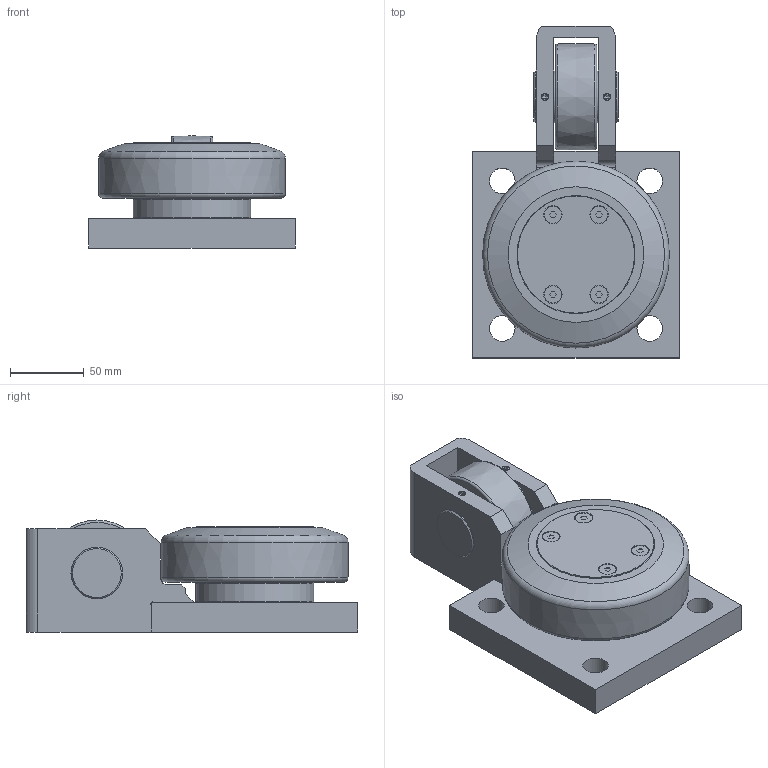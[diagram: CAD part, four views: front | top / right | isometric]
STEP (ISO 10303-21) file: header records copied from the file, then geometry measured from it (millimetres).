
FILE_DESCRIPTION(/* description */ ('-','CAx-IF Rec.Pracs.---Representation and Presentation of Product Manufacturing Information (PMI)---4.0---2014-10-13'),/* implementation_level */ '2;1');
FILE_NAME(/* name */ 'c:\temp\d769b1c2-62cd-49b6-97f6-35e245bc2e8b\8d9c89e7-1212-4744-80bb-2731ae298af8.stp',/* time_stamp */ '2020-04-01T16:44:01+02:00',/* author */ ('-'),/* organization */ ('NTI CADcenter A/S'),/* preprocessor_version */ 'ST-DEVELOPER v18',/* originating_system */ 'Autodesk Inventor 2020',/* authorisation */ '-');
FILE_SCHEMA (('AP242_MANAGED_MODEL_BASED_3D_ENGINEERING_MIM_LF { 1 0 10303 442 1 1 4 }'));
Length unit declared in the file: millimetre
Products named in the file (1): XSTR 120.6200_Kontur
Bounding box: 140 x 225 x 76 mm (x, y, z)
Volume: 1177452.1 mm3; surface area: 135167.5 mm2
Topology: 1 solids, 1 shells, 140 faces, 381 edges, 260 vertices
Faces by surface type: plane 83, cylinder 31, cone 18, torus 6, bspline 2
Full cylindrical faces by diameter (mm): 4.917 x2, 6 x2, 11.7 x4, 12.4 x4, 17.294 x4, 35 x4, 35.1 x2, 80 x3
Entity records: 4764 total; most frequent: CARTESIAN_POINT 1100, ORIENTED_EDGE 758, DIRECTION 741, EDGE_CURVE 379, AXIS2_PLACEMENT_3D 263, VERTEX_POINT 260, LINE 215, VECTOR 215
